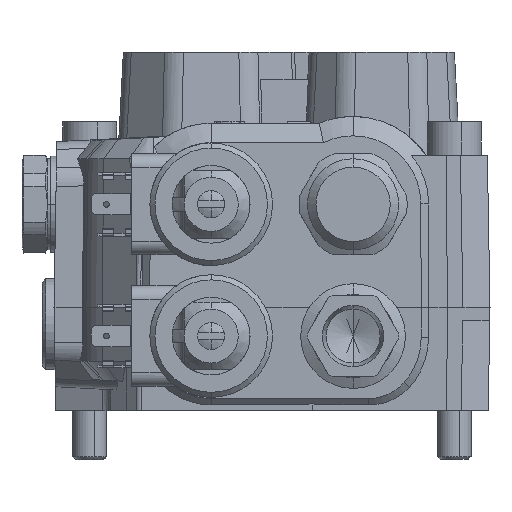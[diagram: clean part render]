
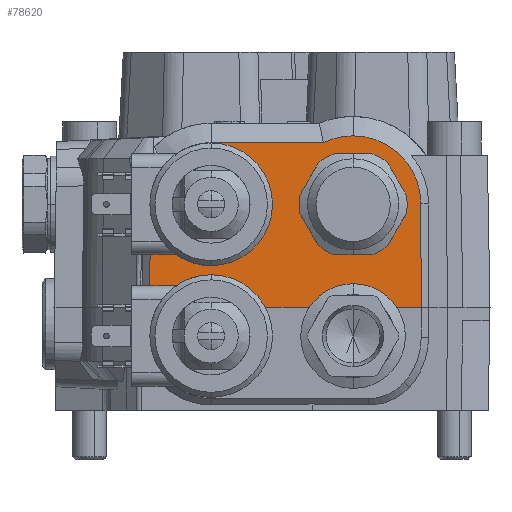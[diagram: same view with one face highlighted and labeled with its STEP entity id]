
A CAD part, left-side view. The second image highlights one B-rep face of the part: STEP entity #78620.
In plain terms, the highlighted planar face has unit normal (-1, 0, 0.012).
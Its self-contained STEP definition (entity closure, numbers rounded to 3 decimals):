
#3068 = CARTESIAN_POINT ( 'NONE',  ( -70.504, 30., 48.746 ) ) ;
#3814 = EDGE_CURVE ( 'NONE', #35712, #34039, #31597, .T. ) ;
#4116 = VECTOR ( 'NONE', #25576, 1000. ) ;
#7115 = CARTESIAN_POINT ( 'NONE',  ( -71.1, -32.185, 0. ) ) ;
#8442 = CARTESIAN_POINT ( 'NONE',  ( -70.504, -3.226, 48.746 ) ) ;
#8706 = CARTESIAN_POINT ( 'NONE',  ( -70.723, -32.024, 30.85 ) ) ;
#11147 = CARTESIAN_POINT ( 'NONE',  ( -71.1, 0., 0. ) ) ;
#13620 = VERTEX_POINT ( 'NONE', #23425 ) ;
#17291 = CARTESIAN_POINT ( 'NONE',  ( -71.1, 0., 0. ) ) ;
#18069 = CARTESIAN_POINT ( 'NONE',  ( -70.504, -3.226, 48.746 ) ) ;
#18462 = EDGE_CURVE ( 'NONE', #34971, #80345, #86680, .T. ) ;
#22375 = VECTOR ( 'NONE', #39428, 1000. ) ;
#23425 = CARTESIAN_POINT ( 'NONE',  ( -70.48, -12., 50.77 ) ) ;
#25576 = DIRECTION ( 'NONE',  ( 0., -1., 0. ) ) ;
#25928 = DIRECTION ( 'NONE',  ( 0., -1., 0. ) ) ;
#27473 = LINE ( 'NONE', #11147, #4116 ) ;
#28123 = VERTEX_POINT ( 'NONE', #95993 ) ;
#31188 = FACE_OUTER_BOUND ( 'NONE', #70588, .T. ) ;
#31250 = ORIENTED_EDGE ( 'NONE', *, *, #18462, .F. ) ;
#31597 = LINE ( 'NONE', #55981, #55116 ) ;
#31968 = CARTESIAN_POINT ( 'NONE',  ( -71.1, 48.185, 0. ) ) ;
#32128 = VERTEX_POINT ( 'NONE', #18069 ) ;
#32190 = EDGE_CURVE ( 'NONE', #28123, #32128, #38730, .T. ) ;
#33180 = EDGE_CURVE ( 'NONE', #35712, #80345, #27473, .T. ) ;
#33925 = CARTESIAN_POINT ( 'NONE',  ( -70.504, 0., 48.746 ) ) ;
#34039 = VERTEX_POINT ( 'NONE', #50819 ) ;
#34104 = CARTESIAN_POINT ( 'NONE',  ( -70.724, 48.024, 30.815 ) ) ;
#34971 = VERTEX_POINT ( 'NONE', #91849 ) ;
#34994 = AXIS2_PLACEMENT_3D ( 'NONE', #17291, #88382, #41076 ) ;
#35712 = VERTEX_POINT ( 'NONE', #31968 ) ;
#38730 = LINE ( 'NONE', #33925, #80721 ) ;
#39141 = CARTESIAN_POINT ( 'NONE',  ( -70.488, -5.971, 50.084 ) ) ;
#39428 = DIRECTION ( 'NONE',  ( -0.012, -0.005, -1. ) ) ;
#39723 = ORIENTED_EDGE ( 'NONE', *, *, #61535, .F. ) ;
#41076 = DIRECTION ( 'NONE',  ( 0.012, 0., 1. ) ) ;
#41389 =( BOUNDED_CURVE ( )  B_SPLINE_CURVE ( 3, ( #8442, #39141, #78124, #101950 ),
 .UNSPECIFIED., .F., .F. ) 
 B_SPLINE_CURVE_WITH_KNOTS ( ( 4, 4 ),
 ( 5.83, 6.283 ),
 .UNSPECIFIED. ) 
 CURVE ( )  GEOMETRIC_REPRESENTATION_ITEM ( )  RATIONAL_B_SPLINE_CURVE ( ( 1., 0.983, 0.983, 1. ) ) 
 REPRESENTATION_ITEM ( '' )  );
#48016 = CARTESIAN_POINT ( 'NONE',  ( -70.48, -23.681, 50.77 ) ) ;
#48354 = CARTESIAN_POINT ( 'NONE',  ( -70.48, -12., 50.77 ) ) ;
#48687 = PLANE ( 'NONE',  #34994 ) ;
#50684 = CARTESIAN_POINT ( 'NONE',  ( -70.595, 47.969, 41.33 ) ) ;
#50819 = CARTESIAN_POINT ( 'NONE',  ( -70.724, 48.024, 30.815 ) ) ;
#53334 =( BOUNDED_CURVE ( )  B_SPLINE_CURVE ( 3, ( #34104, #50684, #58294, #3068 ),
 .UNSPECIFIED., .F., .F. ) 
 B_SPLINE_CURVE_WITH_KNOTS ( ( 4, 4 ),
 ( 4.718, 6.283 ),
 .UNSPECIFIED. ) 
 CURVE ( )  GEOMETRIC_REPRESENTATION_ITEM ( )  RATIONAL_B_SPLINE_CURVE ( ( 1., 0.806, 0.806, 1. ) ) 
 REPRESENTATION_ITEM ( '' )  );
#54972 = CARTESIAN_POINT ( 'NONE',  ( -71.098, -32.184, 0.168 ) ) ;
#55116 = VECTOR ( 'NONE', #80441, 1000. ) ;
#55981 = CARTESIAN_POINT ( 'NONE',  ( -71.097, 48.184, 0.252 ) ) ;
#58294 = CARTESIAN_POINT ( 'NONE',  ( -70.504, 40.514, 48.746 ) ) ;
#61535 = EDGE_CURVE ( 'NONE', #32128, #13620, #41389, .T. ) ;
#61552 = ORIENTED_EDGE ( 'NONE', *, *, #88920, .F. ) ;
#70588 = EDGE_LOOP ( 'NONE', ( #98959, #80328, #31250, #79617, #39723, #93934, #61552 ) ) ;
#73711 = EDGE_CURVE ( 'NONE', #13620, #34971, #86284, .T. ) ;
#78124 = CARTESIAN_POINT ( 'NONE',  ( -70.48, -8.946, 50.77 ) ) ;
#78620 = ADVANCED_FACE ( 'NONE', ( #31188 ), #48687, .T. ) ;
#79617 = ORIENTED_EDGE ( 'NONE', *, *, #73711, .F. ) ;
#80328 = ORIENTED_EDGE ( 'NONE', *, *, #33180, .T. ) ;
#80345 = VERTEX_POINT ( 'NONE', #7115 ) ;
#80441 = DIRECTION ( 'NONE',  ( 0.012, -0.005, 1. ) ) ;
#80721 = VECTOR ( 'NONE', #25928, 1000. ) ;
#86284 =( BOUNDED_CURVE ( )  B_SPLINE_CURVE ( 3, ( #48354, #48016, #94975, #8706 ),
 .UNSPECIFIED., .F., .F. ) 
 B_SPLINE_CURVE_WITH_KNOTS ( ( 4, 4 ),
 ( 0., 1.566 ),
 .UNSPECIFIED. ) 
 CURVE ( )  GEOMETRIC_REPRESENTATION_ITEM ( )  RATIONAL_B_SPLINE_CURVE ( ( 1., 0.806, 0.806, 1. ) ) 
 REPRESENTATION_ITEM ( '' )  );
#86680 = LINE ( 'NONE', #54972, #22375 ) ;
#88382 = DIRECTION ( 'NONE',  ( -1., 0., 0.012 ) ) ;
#88920 = EDGE_CURVE ( 'NONE', #34039, #28123, #53334, .T. ) ;
#91849 = CARTESIAN_POINT ( 'NONE',  ( -70.723, -32.024, 30.85 ) ) ;
#93934 = ORIENTED_EDGE ( 'NONE', *, *, #32190, .F. ) ;
#94975 = CARTESIAN_POINT ( 'NONE',  ( -70.58, -31.963, 42.531 ) ) ;
#95993 = CARTESIAN_POINT ( 'NONE',  ( -70.504, 30., 48.746 ) ) ;
#98959 = ORIENTED_EDGE ( 'NONE', *, *, #3814, .F. ) ;
#101950 = CARTESIAN_POINT ( 'NONE',  ( -70.48, -12., 50.77 ) ) ;
